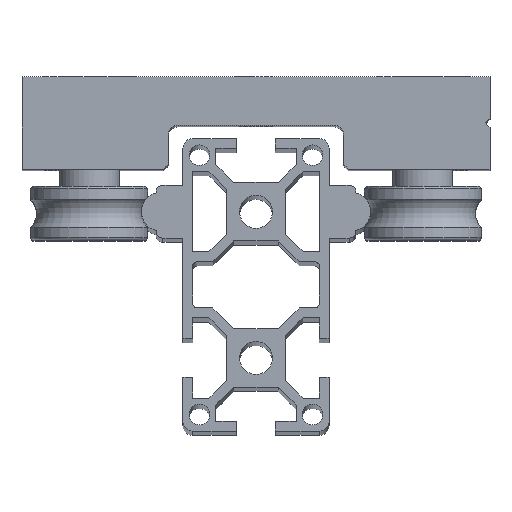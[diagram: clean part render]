
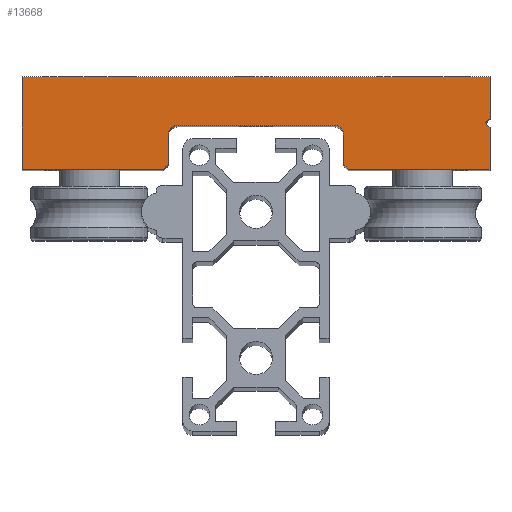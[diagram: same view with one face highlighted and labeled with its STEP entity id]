
A CAD part, top view. The second image highlights one B-rep face of the part: STEP entity #13668.
In plain terms, the highlighted planar face has unit normal (0, 0, 1).
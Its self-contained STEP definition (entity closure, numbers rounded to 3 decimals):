
#14 = VERTEX_POINT ( 'NONE', #7869 ) ;
#47 = ORIENTED_EDGE ( 'NONE', *, *, #13950, .T. ) ;
#295 = CARTESIAN_POINT ( 'NONE',  ( 47., 9.5, 180. ) ) ;
#435 = CARTESIAN_POINT ( 'NONE',  ( -48., 0., 180. ) ) ;
#489 = ORIENTED_EDGE ( 'NONE', *, *, #12965, .T. ) ;
#641 = LINE ( 'NONE', #2964, #11379 ) ;
#666 = VECTOR ( 'NONE', #1295, 1000. ) ;
#701 = VECTOR ( 'NONE', #13070, 1000. ) ;
#1071 = ORIENTED_EDGE ( 'NONE', *, *, #3248, .T. ) ;
#1215 = LINE ( 'NONE', #5758, #5122 ) ;
#1295 = DIRECTION ( 'NONE',  ( 0.707, 0.707, 0. ) ) ;
#1373 = DIRECTION ( 'NONE',  ( 1., 0., 0. ) ) ;
#1395 = VERTEX_POINT ( 'NONE', #295 ) ;
#1487 = ORIENTED_EDGE ( 'NONE', *, *, #10704, .T. ) ;
#1690 = CARTESIAN_POINT ( 'NONE',  ( -48., 0., 180. ) ) ;
#1727 = CARTESIAN_POINT ( 'NONE',  ( 19., 0., 180. ) ) ;
#1977 = CARTESIAN_POINT ( 'NONE',  ( -48., 19., 180. ) ) ;
#2205 = EDGE_LOOP ( 'NONE', ( #4390, #15172, #1487, #7312, #4858, #11436, #13074, #1071, #4562, #6341, #7216, #3315, #15087, #47, #489 ) ) ;
#2217 = CARTESIAN_POINT ( 'NONE',  ( -19., 0., 180. ) ) ;
#2299 = VERTEX_POINT ( 'NONE', #3255 ) ;
#2713 = EDGE_CURVE ( 'NONE', #11699, #3231, #13190, .T. ) ;
#2964 = CARTESIAN_POINT ( 'NONE',  ( -18., 0., 180. ) ) ;
#3194 = VECTOR ( 'NONE', #6482, 1000. ) ;
#3231 = VERTEX_POINT ( 'NONE', #3333 ) ;
#3248 = EDGE_CURVE ( 'NONE', #7403, #11699, #1215, .T. ) ;
#3255 = CARTESIAN_POINT ( 'NONE',  ( 48., 8.5, 180. ) ) ;
#3286 = CARTESIAN_POINT ( 'NONE',  ( 48., 0., 180. ) ) ;
#3315 = ORIENTED_EDGE ( 'NONE', *, *, #4868, .T. ) ;
#3333 = CARTESIAN_POINT ( 'NONE',  ( -48., 0., 180. ) ) ;
#3735 = CARTESIAN_POINT ( 'NONE',  ( 48., 8.5, 180. ) ) ;
#3896 = LINE ( 'NONE', #6319, #3194 ) ;
#3903 = CARTESIAN_POINT ( 'NONE',  ( 18., 7., 180. ) ) ;
#3934 = CARTESIAN_POINT ( 'NONE',  ( 48., 0., 180. ) ) ;
#4027 = LINE ( 'NONE', #1690, #6896 ) ;
#4210 = CARTESIAN_POINT ( 'NONE',  ( 16., 9., 180. ) ) ;
#4315 = EDGE_CURVE ( 'NONE', #1395, #14850, #3896, .T. ) ;
#4360 = DIRECTION ( 'NONE',  ( 0., 0., -1. ) ) ;
#4390 = ORIENTED_EDGE ( 'NONE', *, *, #4698, .T. ) ;
#4562 = ORIENTED_EDGE ( 'NONE', *, *, #2713, .T. ) ;
#4695 = VECTOR ( 'NONE', #6184, 1000. ) ;
#4698 = EDGE_CURVE ( 'NONE', #14443, #14280, #9527, .T. ) ;
#4858 = ORIENTED_EDGE ( 'NONE', *, *, #9482, .T. ) ;
#4865 = DIRECTION ( 'NONE',  ( 1., 0., 0. ) ) ;
#4868 = EDGE_CURVE ( 'NONE', #6963, #11416, #641, .T. ) ;
#4954 = AXIS2_PLACEMENT_3D ( 'NONE', #10426, #5912, #14214 ) ;
#5122 = VECTOR ( 'NONE', #10504, 1000. ) ;
#5256 = LINE ( 'NONE', #9964, #14716 ) ;
#5758 = CARTESIAN_POINT ( 'NONE',  ( -48., 19., 180. ) ) ;
#5912 = DIRECTION ( 'NONE',  ( 0., 0., -1. ) ) ;
#5998 = LINE ( 'NONE', #10984, #9521 ) ;
#6184 = DIRECTION ( 'NONE',  ( 0., -1., 0. ) ) ;
#6319 = CARTESIAN_POINT ( 'NONE',  ( 47., 9.5, 180. ) ) ;
#6341 = ORIENTED_EDGE ( 'NONE', *, *, #14423, .T. ) ;
#6482 = DIRECTION ( 'NONE',  ( 0.707, 0.707, 0. ) ) ;
#6672 = VERTEX_POINT ( 'NONE', #4210 ) ;
#6872 = DIRECTION ( 'NONE',  ( 0., 1., 0. ) ) ;
#6896 = VECTOR ( 'NONE', #1373, 1000. ) ;
#6963 = VERTEX_POINT ( 'NONE', #9269 ) ;
#7099 = FACE_OUTER_BOUND ( 'NONE', #2205, .T. ) ;
#7216 = ORIENTED_EDGE ( 'NONE', *, *, #14912, .T. ) ;
#7217 = LINE ( 'NONE', #11886, #666 ) ;
#7312 = ORIENTED_EDGE ( 'NONE', *, *, #11861, .T. ) ;
#7403 = VERTEX_POINT ( 'NONE', #15210 ) ;
#7444 = DIRECTION ( 'NONE',  ( 0., -1., 0. ) ) ;
#7647 = DIRECTION ( 'NONE',  ( 0., 1., 0. ) ) ;
#7869 = CARTESIAN_POINT ( 'NONE',  ( 48., 0., 180. ) ) ;
#8188 = PLANE ( 'NONE',  #12506 ) ;
#8421 = EDGE_CURVE ( 'NONE', #14280, #10088, #5256, .T. ) ;
#8495 = LINE ( 'NONE', #10767, #10502 ) ;
#8980 = CIRCLE ( 'NONE', #12947, 2. ) ;
#9053 = DIRECTION ( 'NONE',  ( -1., 0., 0. ) ) ;
#9269 = CARTESIAN_POINT ( 'NONE',  ( -18., 1., 180. ) ) ;
#9436 = CARTESIAN_POINT ( 'NONE',  ( 0., 0., 180. ) ) ;
#9482 = EDGE_CURVE ( 'NONE', #2299, #1395, #10751, .T. ) ;
#9521 = VECTOR ( 'NONE', #4865, 1000. ) ;
#9527 = LINE ( 'NONE', #12178, #4695 ) ;
#9859 = DIRECTION ( 'NONE',  ( 0., 1., 0. ) ) ;
#9910 = DIRECTION ( 'NONE',  ( 1., 0., 0. ) ) ;
#9964 = CARTESIAN_POINT ( 'NONE',  ( 19., 0., 180. ) ) ;
#10088 = VERTEX_POINT ( 'NONE', #1727 ) ;
#10426 = CARTESIAN_POINT ( 'NONE',  ( -16., 7., 180. ) ) ;
#10502 = VECTOR ( 'NONE', #9910, 1000. ) ;
#10504 = DIRECTION ( 'NONE',  ( -1., 0., 0. ) ) ;
#10523 = EDGE_CURVE ( 'NONE', #11416, #11441, #12865, .T. ) ;
#10704 = EDGE_CURVE ( 'NONE', #10088, #14, #4027, .T. ) ;
#10751 = LINE ( 'NONE', #3735, #701 ) ;
#10767 = CARTESIAN_POINT ( 'NONE',  ( -48., 0., 180. ) ) ;
#10984 = CARTESIAN_POINT ( 'NONE',  ( 18., 9., 180. ) ) ;
#11038 = LINE ( 'NONE', #3934, #13358 ) ;
#11068 = VECTOR ( 'NONE', #7444, 1000. ) ;
#11296 = DIRECTION ( 'NONE',  ( 0.707, -0.707, 0. ) ) ;
#11347 = CARTESIAN_POINT ( 'NONE',  ( 18., 1., 180. ) ) ;
#11379 = VECTOR ( 'NONE', #7647, 1000. ) ;
#11416 = VERTEX_POINT ( 'NONE', #15173 ) ;
#11436 = ORIENTED_EDGE ( 'NONE', *, *, #4315, .T. ) ;
#11441 = VERTEX_POINT ( 'NONE', #14200 ) ;
#11527 = EDGE_CURVE ( 'NONE', #14850, #7403, #11038, .T. ) ;
#11699 = VERTEX_POINT ( 'NONE', #1977 ) ;
#11861 = EDGE_CURVE ( 'NONE', #14, #2299, #15056, .T. ) ;
#11886 = CARTESIAN_POINT ( 'NONE',  ( -18., 1., 180. ) ) ;
#11905 = VECTOR ( 'NONE', #6872, 1000. ) ;
#12178 = CARTESIAN_POINT ( 'NONE',  ( 18., 0., 180. ) ) ;
#12393 = VERTEX_POINT ( 'NONE', #2217 ) ;
#12506 = AXIS2_PLACEMENT_3D ( 'NONE', #9436, #15211, #14167 ) ;
#12865 = CIRCLE ( 'NONE', #4954, 2. ) ;
#12947 = AXIS2_PLACEMENT_3D ( 'NONE', #14880, #4360, #9053 ) ;
#12965 = EDGE_CURVE ( 'NONE', #6672, #14443, #8980, .T. ) ;
#13070 = DIRECTION ( 'NONE',  ( -0.707, 0.707, 0. ) ) ;
#13074 = ORIENTED_EDGE ( 'NONE', *, *, #11527, .T. ) ;
#13190 = LINE ( 'NONE', #435, #11068 ) ;
#13358 = VECTOR ( 'NONE', #9859, 1000. ) ;
#13668 = ADVANCED_FACE ( 'NONE', ( #7099 ), #8188, .F. ) ;
#13950 = EDGE_CURVE ( 'NONE', #11441, #6672, #5998, .T. ) ;
#14057 = CARTESIAN_POINT ( 'NONE',  ( 48., 10.5, 180. ) ) ;
#14167 = DIRECTION ( 'NONE',  ( -1., 0., 0. ) ) ;
#14200 = CARTESIAN_POINT ( 'NONE',  ( -16., 9., 180. ) ) ;
#14214 = DIRECTION ( 'NONE',  ( -1., 0., 0. ) ) ;
#14280 = VERTEX_POINT ( 'NONE', #11347 ) ;
#14423 = EDGE_CURVE ( 'NONE', #3231, #12393, #8495, .T. ) ;
#14443 = VERTEX_POINT ( 'NONE', #3903 ) ;
#14716 = VECTOR ( 'NONE', #11296, 1000. ) ;
#14850 = VERTEX_POINT ( 'NONE', #14057 ) ;
#14880 = CARTESIAN_POINT ( 'NONE',  ( 16., 7., 180. ) ) ;
#14912 = EDGE_CURVE ( 'NONE', #12393, #6963, #7217, .T. ) ;
#15056 = LINE ( 'NONE', #3286, #11905 ) ;
#15087 = ORIENTED_EDGE ( 'NONE', *, *, #10523, .T. ) ;
#15172 = ORIENTED_EDGE ( 'NONE', *, *, #8421, .T. ) ;
#15173 = CARTESIAN_POINT ( 'NONE',  ( -18., 7., 180. ) ) ;
#15210 = CARTESIAN_POINT ( 'NONE',  ( 48., 19., 180. ) ) ;
#15211 = DIRECTION ( 'NONE',  ( 0., 0., -1. ) ) ;
